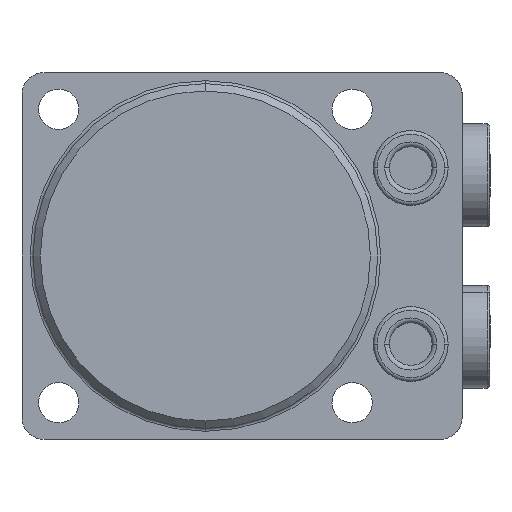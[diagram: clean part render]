
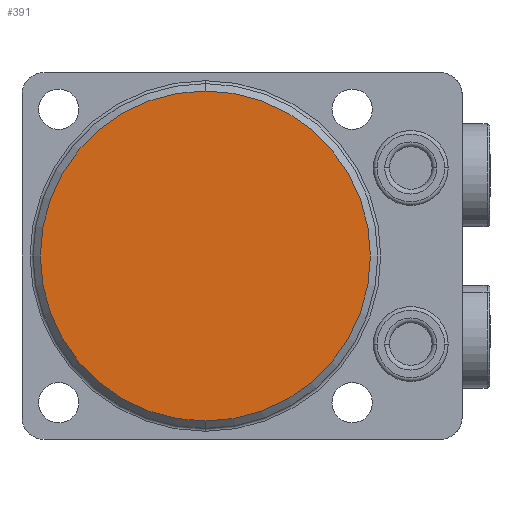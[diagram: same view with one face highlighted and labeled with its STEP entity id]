
A CAD part, front view. The second image highlights one B-rep face of the part: STEP entity #391.
In plain terms, the highlighted planar face has unit normal (0, -1, 0) as drawn and (0, 1, 0) by its records, which use the part's own axes.
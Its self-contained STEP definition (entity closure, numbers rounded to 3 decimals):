
#229=PLANE('',#3160);
#391=ADVANCED_FACE('',(#635),#229,.T.);
#635=FACE_OUTER_BOUND('',#813,.F.);
#813=EDGE_LOOP('',(#1414,#1415));
#1042=CIRCLE('',#3124,22.5);
#1064=CIRCLE('',#3159,22.5);
#1414=ORIENTED_EDGE('',*,*,#2446,.T.);
#1415=ORIENTED_EDGE('',*,*,#2385,.T.);
#2098=VERTEX_POINT('',#4638);
#2099=VERTEX_POINT('',#4639);
#2385=EDGE_CURVE('',#2098,#2099,#1042,.T.);
#2446=EDGE_CURVE('',#2099,#2098,#1064,.T.);
#3124=AXIS2_PLACEMENT_3D('',#4637,#3668,#3669);
#3159=AXIS2_PLACEMENT_3D('',#4767,#3772,#3773);
#3160=AXIS2_PLACEMENT_3D('',#4768,#3774,#3775);
#3668=DIRECTION('',(0.,-1.,0.));
#3669=DIRECTION('',(0.,0.,1.));
#3772=DIRECTION('',(0.,-1.,0.));
#3773=DIRECTION('',(0.,0.,1.));
#3774=DIRECTION('',(0.,1.,0.));
#3775=DIRECTION('',(0.,0.,1.));
#4637=CARTESIAN_POINT('',(0.,0.,0.));
#4638=CARTESIAN_POINT('',(0.,0.,-22.5));
#4639=CARTESIAN_POINT('',(0.,0.,22.5));
#4767=CARTESIAN_POINT('',(0.,0.,0.));
#4768=CARTESIAN_POINT('',(-25.,0.,25.));
